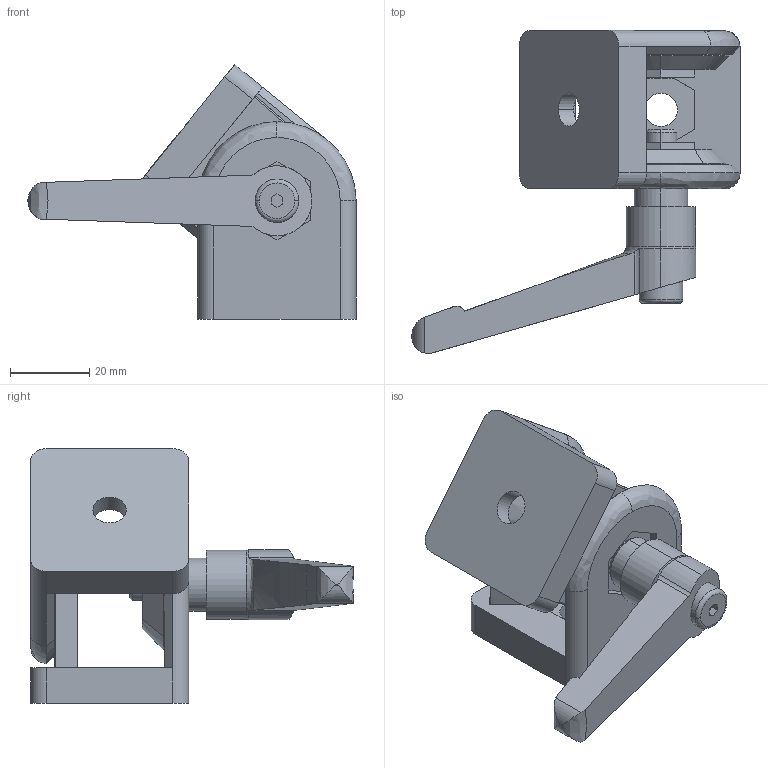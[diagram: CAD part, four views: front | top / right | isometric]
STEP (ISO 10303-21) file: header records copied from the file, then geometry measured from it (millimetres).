
FILE_DESCRIPTION (( 'STEP AP203' ), '1' );
FILE_NAME ('0108G40KH.STEP', '2024-03-14T14:30:07', ( 'Windows-Benutzer' ), ( '' ), 'SwSTEP 2.0', 'SolidWorks 2023', '' );
FILE_SCHEMA (( 'CONFIG_CONTROL_DESIGN' ));
Length unit declared in the file: millimetre
Products named in the file (7): verstellbarer Klemmhebel_1; G40KH_3; G40KH_1; G40KH_2; G40KH_5; 0108G40KH; G40KH_6
Assembly tree (6 placements, depth 2):
  0108G40KH
    G40KH_2
    G40KH_1
    G40KH_5
    G40KH_3
    G40KH_6
    verstellbarer Klemmhebel_1
Bounding box: 83 x 81.69 x 64.44 mm (x, y, z)
Volume: 62776 mm3; surface area: 26995.7 mm2
Topology: 6 solids, 6 shells, 206 faces, 514 edges, 329 vertices
Faces by surface type: plane 113, cylinder 52, cone 28, bspline 13
Entity records: 7581 total; most frequent: CARTESIAN_POINT 1982, ORIENTED_EDGE 1024, DIRECTION 984, EDGE_CURVE 512, VERTEX_POINT 329, AXIS2_PLACEMENT_3D 329, VECTOR 326, LINE 326
